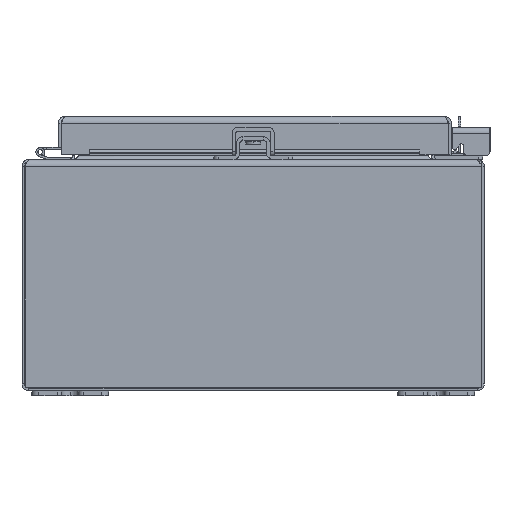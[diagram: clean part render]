
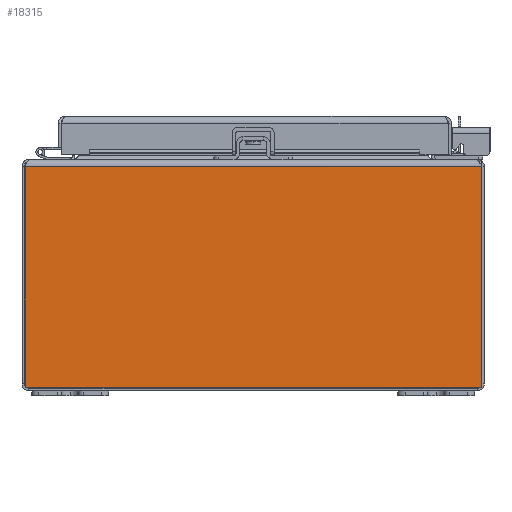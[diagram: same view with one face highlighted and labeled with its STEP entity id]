
A CAD part, front view. The second image highlights one B-rep face of the part: STEP entity #18315.
In plain terms, the highlighted planar face has unit normal (0, -1, 0) as drawn and (0, 1, 0) by its records, which use the part's own axes.
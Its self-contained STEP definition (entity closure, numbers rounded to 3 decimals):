
#18255 = VERTEX_POINT ( 'NONE', #55383 ) ;
#18260 = EDGE_CURVE ( 'NONE', #18255, #18261, #55382, .T. ) ;
#18261 = VERTEX_POINT ( 'NONE', #55378 ) ;
#18313 = EDGE_CURVE ( 'NONE', #18338, #18324, #55452, .T. ) ;
#18315 = ADVANCED_FACE ( 'NONE', ( #55448 ), #55446, .F. ) ;
#18317 = EDGE_LOOP ( 'NONE', ( #18413, #18417, #18419, #18421 ) ) ;
#18323 = EDGE_CURVE ( 'NONE', #18324, #18261, #55447, .T. ) ;
#18324 = VERTEX_POINT ( 'NONE', #55503 ) ;
#18336 = EDGE_CURVE ( 'NONE', #18255, #18338, #55481, .T. ) ;
#18338 = VERTEX_POINT ( 'NONE', #55477 ) ;
#18413 = ORIENTED_EDGE ( 'NONE', *, *, #18323, .T. ) ;
#18417 = ORIENTED_EDGE ( 'NONE', *, *, #18260, .F. ) ;
#18419 = ORIENTED_EDGE ( 'NONE', *, *, #18336, .T. ) ;
#18421 = ORIENTED_EDGE ( 'NONE', *, *, #18313, .T. ) ;
#55378 = CARTESIAN_POINT ( 'NONE',  ( -5.92, 0.069, 2.776 ) ) ;
#55379 = DIRECTION ( 'NONE',  ( -1., 0., 0. ) ) ;
#55380 = VECTOR ( 'NONE', #55379, 39.37 ) ;
#55381 = CARTESIAN_POINT ( 'NONE',  ( 65.12, 0.069, 2.776 ) ) ;
#55382 = LINE ( 'NONE', #55381, #55380 ) ;
#55383 = CARTESIAN_POINT ( 'NONE',  ( 5.92, 0.069, 2.776 ) ) ;
#55439 = DIRECTION ( 'NONE',  ( 0., 0., 1. ) ) ;
#55440 = VECTOR ( 'NONE', #55439, 39.37 ) ;
#55441 = CARTESIAN_POINT ( 'NONE',  ( -5.92, 0.069, 2.955 ) ) ;
#55442 = DIRECTION ( 'NONE',  ( 0., 0., -1. ) ) ;
#55443 = DIRECTION ( 'NONE',  ( 0., -1., 0. ) ) ;
#55444 = CARTESIAN_POINT ( 'NONE',  ( -5.92, 0.069, -2.955 ) ) ;
#55445 = AXIS2_PLACEMENT_3D ( 'NONE', #55444, #55443, #55442 ) ;
#55446 = PLANE ( 'NONE',  #55445 ) ;
#55447 = LINE ( 'NONE', #55441, #55440 ) ;
#55448 = FACE_OUTER_BOUND ( 'NONE', #18317, .T. ) ;
#55449 = DIRECTION ( 'NONE',  ( -1., 0., 0. ) ) ;
#55450 = VECTOR ( 'NONE', #55449, 39.37 ) ;
#55451 = CARTESIAN_POINT ( 'NONE',  ( -5.92, 0.069, -2.955 ) ) ;
#55452 = LINE ( 'NONE', #55451, #55450 ) ;
#55477 = CARTESIAN_POINT ( 'NONE',  ( 5.92, 0.069, -2.955 ) ) ;
#55478 = DIRECTION ( 'NONE',  ( 0., 0., -1. ) ) ;
#55479 = VECTOR ( 'NONE', #55478, 39.37 ) ;
#55480 = CARTESIAN_POINT ( 'NONE',  ( 5.92, 0.069, 2.955 ) ) ;
#55481 = LINE ( 'NONE', #55480, #55479 ) ;
#55503 = CARTESIAN_POINT ( 'NONE',  ( -5.92, 0.069, -2.955 ) ) ;
